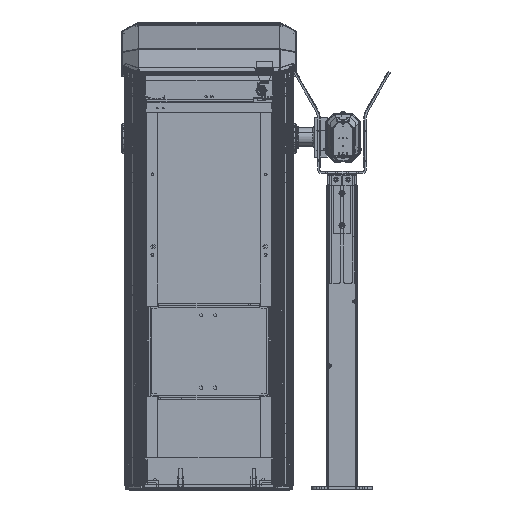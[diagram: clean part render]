
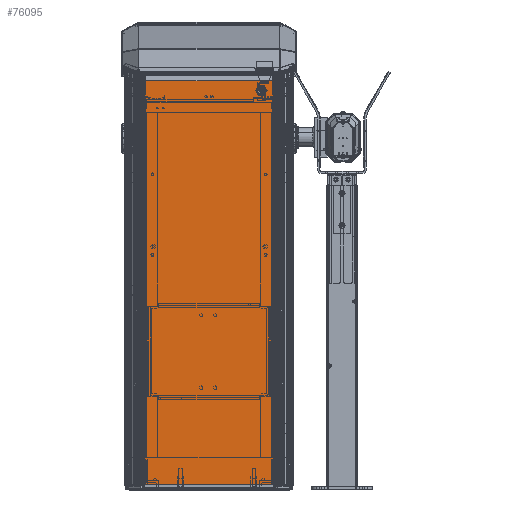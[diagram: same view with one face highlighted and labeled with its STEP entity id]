
A CAD part, left-side view. The second image highlights one B-rep face of the part: STEP entity #76095.
In plain terms, the highlighted planar face has unit normal (-1, 0, 0) as drawn and (0, 1, 0) by its records, which use the part's own axes.
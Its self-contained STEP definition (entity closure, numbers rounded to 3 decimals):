
#10148=LINE('',#140224,#17041);
#10152=LINE('',#140233,#17045);
#10158=LINE('',#140247,#17051);
#10162=LINE('',#140256,#17055);
#10170=LINE('',#140277,#17063);
#10171=LINE('',#140282,#17064);
#10172=LINE('',#140285,#17065);
#10173=LINE('',#140286,#17066);
#10174=LINE('',#140287,#17067);
#10175=LINE('',#140288,#17068);
#17041=VECTOR('',#110274,1000.);
#17045=VECTOR('',#110280,1000.);
#17051=VECTOR('',#110288,1000.);
#17055=VECTOR('',#110294,1000.);
#17063=VECTOR('',#110314,1000.);
#17064=VECTOR('',#110317,1000.);
#17065=VECTOR('',#110320,1000.);
#17066=VECTOR('',#110321,1000.);
#17067=VECTOR('',#110322,1000.);
#17068=VECTOR('',#110323,1000.);
#36629=ORIENTED_EDGE('',*,*,#48572,.T.);
#36630=ORIENTED_EDGE('',*,*,#48573,.F.);
#36631=ORIENTED_EDGE('',*,*,#48574,.F.);
#36632=ORIENTED_EDGE('',*,*,#48575,.F.);
#36633=ORIENTED_EDGE('',*,*,#48576,.F.);
#36634=ORIENTED_EDGE('',*,*,#48557,.F.);
#36635=ORIENTED_EDGE('',*,*,#48577,.T.);
#36636=ORIENTED_EDGE('',*,*,#48551,.F.);
#36637=ORIENTED_EDGE('',*,*,#48578,.T.);
#36638=ORIENTED_EDGE('',*,*,#48547,.F.);
#36639=ORIENTED_EDGE('',*,*,#48579,.T.);
#36640=ORIENTED_EDGE('',*,*,#48561,.F.);
#36641=ORIENTED_EDGE('',*,*,#48580,.T.);
#48547=EDGE_CURVE('',#56052,#56053,#10148,.T.);
#48551=EDGE_CURVE('',#56056,#56057,#10152,.T.);
#48557=EDGE_CURVE('',#56062,#56063,#10158,.T.);
#48561=EDGE_CURVE('',#56066,#56067,#10162,.T.);
#48572=EDGE_CURVE('',#56073,#56073,#59238,.T.);
#48573=EDGE_CURVE('',#56074,#56075,#10170,.T.);
#48574=EDGE_CURVE('',#56076,#56074,#59239,.T.);
#48575=EDGE_CURVE('',#56077,#56076,#10171,.T.);
#48576=EDGE_CURVE('',#56075,#56077,#59240,.T.);
#48577=EDGE_CURVE('',#56062,#56057,#10172,.F.);
#48578=EDGE_CURVE('',#56056,#56053,#10173,.F.);
#48579=EDGE_CURVE('',#56052,#56067,#10174,.F.);
#48580=EDGE_CURVE('',#56066,#56063,#10175,.F.);
#56052=VERTEX_POINT('',#140225);
#56053=VERTEX_POINT('',#140226);
#56056=VERTEX_POINT('',#140234);
#56057=VERTEX_POINT('',#140235);
#56062=VERTEX_POINT('',#140246);
#56063=VERTEX_POINT('',#140248);
#56066=VERTEX_POINT('',#140255);
#56067=VERTEX_POINT('',#140257);
#56073=VERTEX_POINT('',#140276);
#56074=VERTEX_POINT('',#140278);
#56075=VERTEX_POINT('',#140279);
#56076=VERTEX_POINT('',#140281);
#56077=VERTEX_POINT('',#140283);
#59238=CIRCLE('',#90535,1.75);
#59239=CIRCLE('',#90536,10.);
#59240=CIRCLE('',#90537,10.);
#64120=EDGE_LOOP('',(#36629));
#64121=EDGE_LOOP('',(#36630,#36631,#36632,#36633));
#64122=EDGE_LOOP('',(#36634,#36635,#36636,#36637,#36638,#36639,#36640,#36641));
#69286=FACE_BOUND('',#64120,.T.);
#69287=FACE_BOUND('',#64121,.T.);
#69288=FACE_BOUND('',#64122,.T.);
#72033=PLANE('',#90534);
#76095=ADVANCED_FACE('',(#69286,#69287,#69288),#72033,.F.);
#90534=AXIS2_PLACEMENT_3D('',#140274,#110310,#110311);
#90535=AXIS2_PLACEMENT_3D('',#140275,#110312,#110313);
#90536=AXIS2_PLACEMENT_3D('',#140280,#110315,#110316);
#90537=AXIS2_PLACEMENT_3D('',#140284,#110318,#110319);
#110274=DIRECTION('',(0.,0.,-1.));
#110280=DIRECTION('',(1.,0.,0.));
#110288=DIRECTION('',(0.,0.,1.));
#110294=DIRECTION('',(-1.,0.,0.));
#110310=DIRECTION('',(0.,-1.,0.));
#110311=DIRECTION('',(0.,0.,-1.));
#110312=DIRECTION('',(0.,-1.,0.));
#110313=DIRECTION('',(0.,0.,-1.));
#110314=DIRECTION('',(0.,0.,1.));
#110315=DIRECTION('',(0.,1.,0.));
#110316=DIRECTION('',(1.,0.,0.));
#110317=DIRECTION('',(0.,0.,-1.));
#110318=DIRECTION('',(0.,1.,0.));
#110319=DIRECTION('',(1.,0.,0.));
#110320=DIRECTION('',(0.707,0.,0.707));
#110321=DIRECTION('',(0.707,0.,-0.707));
#110322=DIRECTION('',(-0.707,0.,-0.707));
#110323=DIRECTION('',(-0.707,0.,0.707));
#140224=CARTESIAN_POINT('',(-167.5,0.,1019.));
#140225=CARTESIAN_POINT('',(-167.5,0.,1017.));
#140226=CARTESIAN_POINT('',(-167.5,0.,2.));
#140233=CARTESIAN_POINT('',(-167.5,0.,0.));
#140234=CARTESIAN_POINT('',(-165.5,0.,0.));
#140235=CARTESIAN_POINT('',(165.5,0.,0.));
#140246=CARTESIAN_POINT('',(167.5,0.,2.));
#140247=CARTESIAN_POINT('',(167.5,0.,0.));
#140248=CARTESIAN_POINT('',(167.5,0.,1017.));
#140255=CARTESIAN_POINT('',(165.5,0.,1019.));
#140256=CARTESIAN_POINT('',(167.5,0.,1019.));
#140257=CARTESIAN_POINT('',(-165.5,0.,1019.));
#140274=CARTESIAN_POINT('',(-167.5,0.,0.));
#140275=CARTESIAN_POINT('',(162.5,0.,1014.));
#140276=CARTESIAN_POINT('',(162.5,0.,1012.25));
#140277=CARTESIAN_POINT('',(121.,0.,34.541));
#140278=CARTESIAN_POINT('',(121.,0.,34.541));
#140279=CARTESIAN_POINT('',(121.,0.,43.259));
#140280=CARTESIAN_POINT('',(130.,0.,38.9));
#140281=CARTESIAN_POINT('',(139.,0.,34.541));
#140282=CARTESIAN_POINT('',(139.,0.,34.541));
#140283=CARTESIAN_POINT('',(139.,0.,43.259));
#140284=CARTESIAN_POINT('',(130.,0.,38.9));
#140285=CARTESIAN_POINT('',(167.5,0.,2.));
#140286=CARTESIAN_POINT('',(-165.5,0.,0.));
#140287=CARTESIAN_POINT('',(-167.5,0.,1017.));
#140288=CARTESIAN_POINT('',(165.5,0.,1019.));
